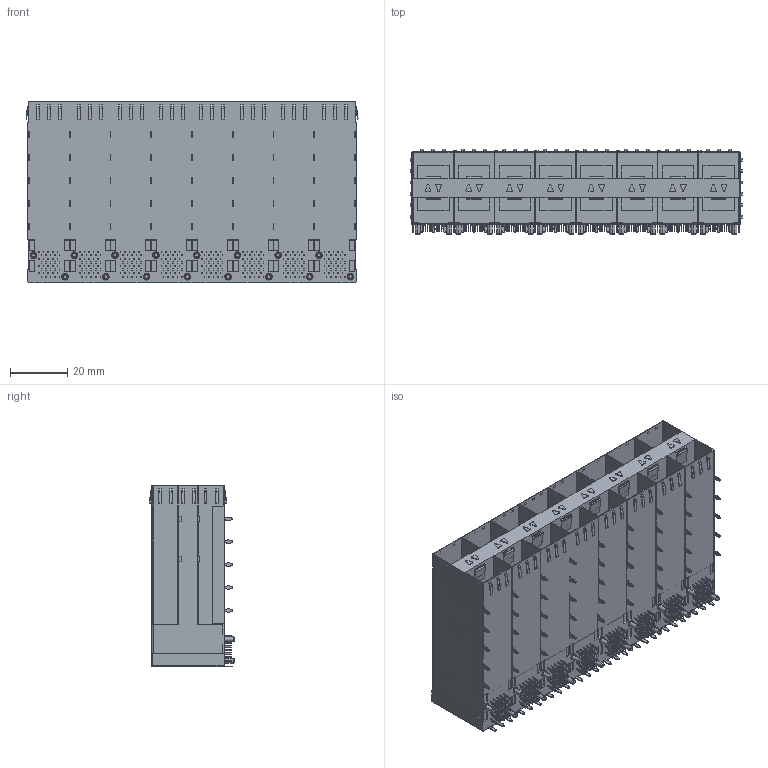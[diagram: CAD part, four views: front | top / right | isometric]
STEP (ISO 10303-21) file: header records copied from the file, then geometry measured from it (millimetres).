
FILE_DESCRIPTION (( 'STEP AP214' ), '1' );
FILE_NAME ('SFP 2X8 无月牙 内灯(上下).STEP', '2025-06-12T02:09:07', ( '桑三博客' ), ( 'Www.SangSan.Cn' ), 'SwSTEP 2.0', 'SolidWorks 2018', '' );
FILE_SCHEMA (( 'AUTOMOTIVE_DESIGN' ));
Length unit declared in the file: millimetre
Products named in the file (1): SFP 2X8 拸堎挴 囀腑(奻狟)
Bounding box: 116.05 x 29.8 x 63.5 mm (x, y, z)
Volume: 92910.5 mm3; surface area: 63912.7 mm2
Topology: 1 solids, 1 shells, 4526 faces, 11998 edges, 7974 vertices
Faces by surface type: plane 3382, cylinder 1078, cone 64, sphere 2
Entity records: 139522 total; most frequent: CARTESIAN_POINT 24497, ORIENTED_EDGE 23992, DIRECTION 23270, EDGE_CURVE 11996, VECTOR 9776, LINE 9776, VERTEX_POINT 7974, AXIS2_PLACEMENT_3D 6747
